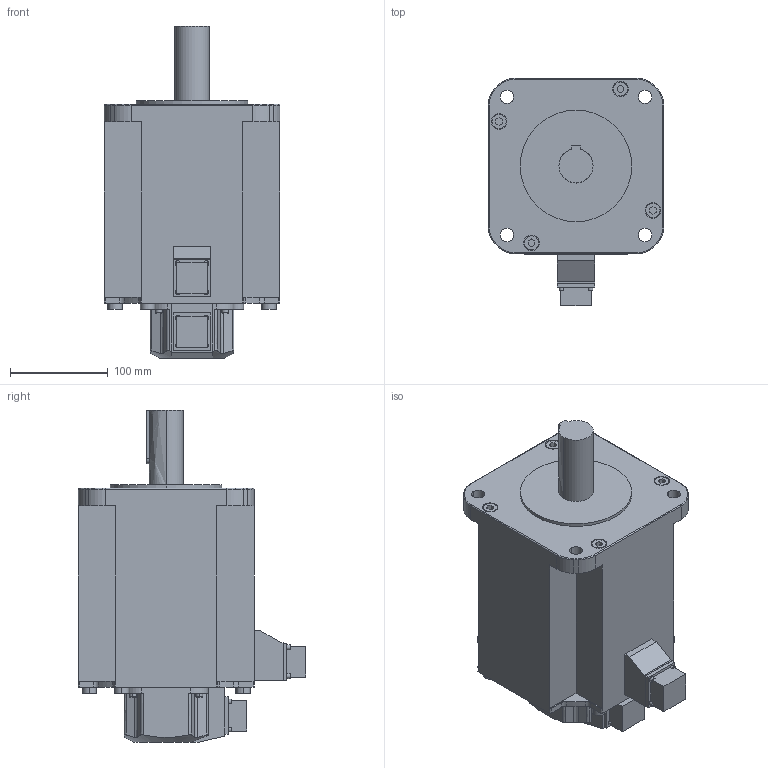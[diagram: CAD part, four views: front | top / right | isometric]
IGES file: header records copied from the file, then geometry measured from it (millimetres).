
Start section:  PTC IGES file: rsmh_50ask3.igs
Global section: file name: rsmh_50ask3.igs; native system: Pro/ENGINEER by Parametric Technology Corporation; preprocessor: 2004440; author: Administrator; organization: Unknown; date: 070829.192436; units: millimetre
Bounding box: 180 x 233 x 340 mm (x, y, z)
Volume: 6111816.7 mm3; surface area: 256356.5 mm2
Topology: 1 solids, 1 shells, 290 faces, 744 edges, 488 vertices
Faces by surface type: bspline 164, revolution 126
